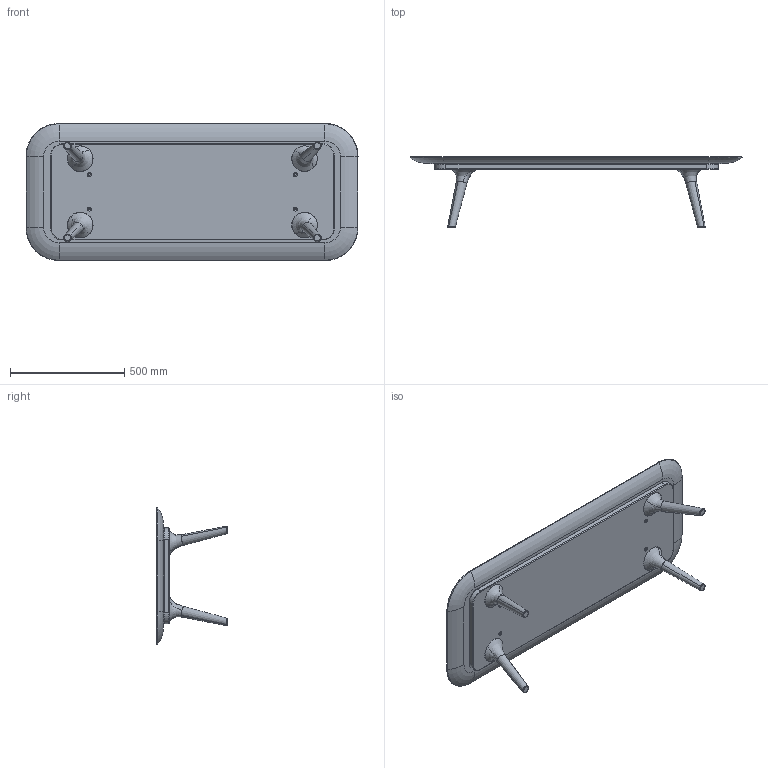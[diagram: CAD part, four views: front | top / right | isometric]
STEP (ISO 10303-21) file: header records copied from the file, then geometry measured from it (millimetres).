
FILE_DESCRIPTION (( 'STEP AP203' ), '1' );
FILE_NAME ('Zio_coffeetable_145x60.STEP', '2014-09-02T12:18:06', ( '' ), ( '' ), 'SwSTEP 2.0', 'SolidWorks 2014', '' );
FILE_SCHEMA (( 'CONFIG_CONTROL_DESIGN' ));
Length unit declared in the file: millimetre
Products named in the file (1): Zio_coffeetable_145x60
Bounding box: 1450.46 x 309 x 598.44 mm (x, y, z)
Volume: 37911912.5 mm3; surface area: 3076970.4 mm2
Topology: 6 solids, 6 shells, 189 faces, 411 edges, 258 vertices
Faces by surface type: cylinder 101, plane 40, bspline 28, cone 16, torus 4
Entity records: 9904 total; most frequent: CARTESIAN_POINT 5693, DIRECTION 889, ORIENTED_EDGE 822, EDGE_CURVE 411, AXIS2_PLACEMENT_3D 378, VERTEX_POINT 258, EDGE_LOOP 237, CIRCLE 216
